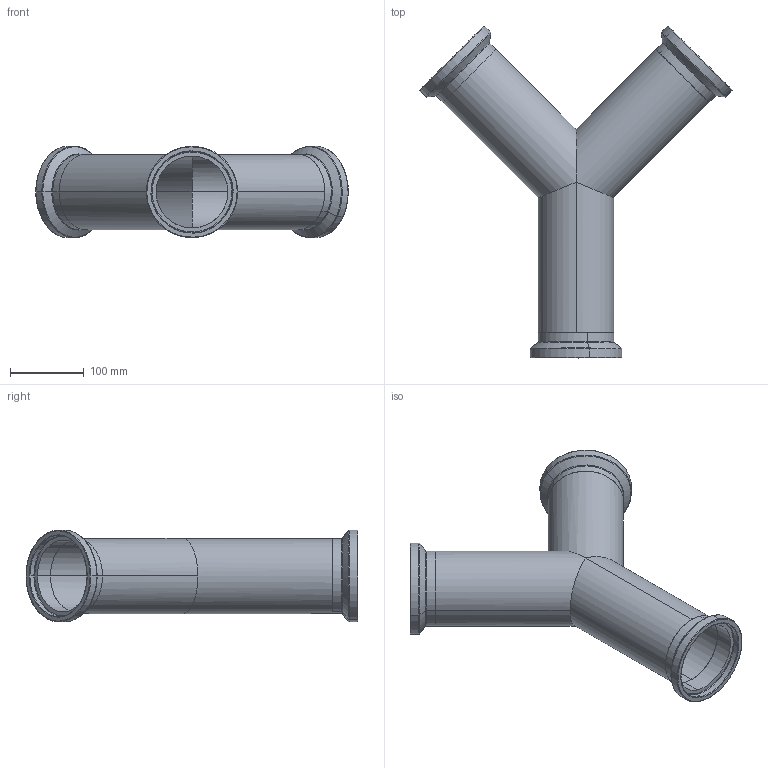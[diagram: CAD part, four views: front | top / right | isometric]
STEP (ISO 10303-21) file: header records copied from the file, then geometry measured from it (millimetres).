
FILE_DESCRIPTION (( 'STEP AP203' ), '1' );
FILE_NAME ('E28BI 4.0.STEP', '2021-10-27T12:41:50', ( '' ), ( '' ), 'SwSTEP 2.0', 'SolidWorks 2021', '' );
FILE_SCHEMA (( 'CONFIG_CONTROL_DESIGN' ));
Length unit declared in the file: inch
Products named in the file (3): E15WI4.0; V28WB4.0; E28BI 4.0
Assembly tree (4 placements, depth 2):
  E28BI 4.0
    V28WB4.0
    E15WI4.0  x3
Bounding box: 422.41 x 448.56 x 123.7 mm (x, y, z)
Volume: 575445.5 mm3; surface area: 435699.4 mm2
Topology: 4 solids, 4 shells, 84 faces, 174 edges, 100 vertices
Faces by surface type: cylinder 36, torus 30, plane 12, cone 6
Entity records: 1421 total; most frequent: CARTESIAN_POINT 211, DIRECTION 208, ORIENTED_EDGE 164, AXIS2_PLACEMENT_3D 93, EDGE_CURVE 82, VERTEX_POINT 48, CIRCLE 48, EDGE_LOOP 44
